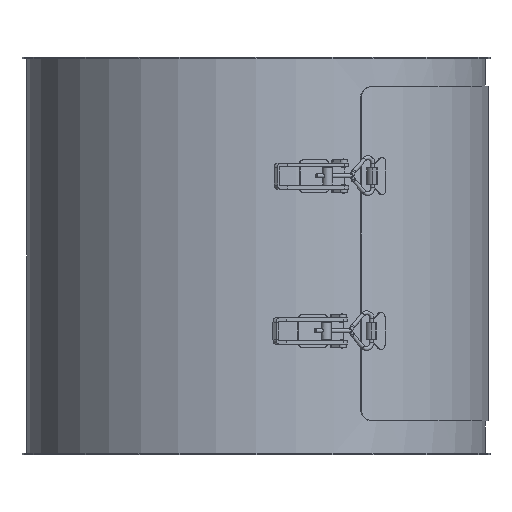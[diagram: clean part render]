
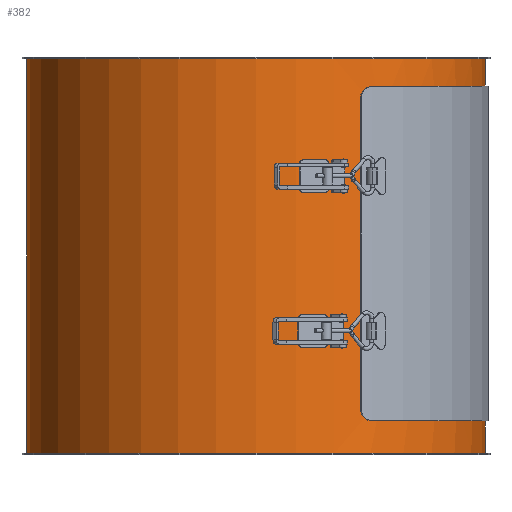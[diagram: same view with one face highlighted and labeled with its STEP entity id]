
A CAD part, left-side view. The second image highlights one B-rep face of the part: STEP entity #382.
In plain terms, the highlighted cylindrical face has radius 281 mm (diameter 562 mm), a full revolution.
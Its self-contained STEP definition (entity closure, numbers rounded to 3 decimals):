
#123=CARTESIAN_POINT('',(-235.5,-153.3,69.));
#124=VERTEX_POINT('',#123);
#131=CARTESIAN_POINT('',(235.5,-153.3,69.));
#132=VERTEX_POINT('',#131);
#133=CARTESIAN_POINT('',(0.0,0.0,69.));
#134=DIRECTION('',(0.0,0.0,-1.0));
#135=DIRECTION('',(-1.0,0.0,0.0));
#136=AXIS2_PLACEMENT_3D('',#133,#134,#135);
#137=CIRCLE('',#136,281.0);
#138=EDGE_CURVE('',#132,#124,#137,.T.);
#163=CARTESIAN_POINT('',(235.5,-153.3,419.));
#164=VERTEX_POINT('',#163);
#165=CARTESIAN_POINT('',(235.5,-153.3,419.));
#166=DIRECTION('',(0.0,0.0,-1.0));
#167=VECTOR('',#166,350.);
#168=LINE('',#165,#167);
#169=EDGE_CURVE('',#164,#132,#168,.T.);
#195=CARTESIAN_POINT('',(-235.5,-153.3,419.));
#196=VERTEX_POINT('',#195);
#197=CARTESIAN_POINT('',(0.0,0.0,419.));
#198=DIRECTION('',(0.0,0.0,1.0));
#199=DIRECTION('',(-1.0,0.0,0.0));
#200=AXIS2_PLACEMENT_3D('',#197,#198,#199);
#201=CIRCLE('',#200,281.0);
#202=EDGE_CURVE('',#196,#164,#201,.T.);
#225=CARTESIAN_POINT('',(-235.5,-153.3,69.));
#226=DIRECTION('',(0.0,0.0,1.0));
#227=VECTOR('',#226,350.0);
#228=LINE('',#225,#227);
#229=EDGE_CURVE('',#124,#196,#228,.T.);
#271=CARTESIAN_POINT('',(-281.0,0.,2.0));
#272=VERTEX_POINT('',#271);
#273=CARTESIAN_POINT('',(0.0,0.0,2.0));
#274=DIRECTION('',(0.0,0.0,1.0));
#275=DIRECTION('',(-1.0,0.0,0.0));
#276=AXIS2_PLACEMENT_3D('',#273,#274,#275);
#277=CIRCLE('',#276,281.0);
#278=EDGE_CURVE('',#272,#272,#277,.T.);
#319=CARTESIAN_POINT('',(281.0,0.,486.0));
#320=VERTEX_POINT('',#319);
#321=CARTESIAN_POINT('',(0.0,0.0,486.0));
#322=DIRECTION('',(0.0,0.0,-1.0));
#323=DIRECTION('',(-1.0,0.0,0.0));
#324=AXIS2_PLACEMENT_3D('',#321,#322,#323);
#325=CIRCLE('',#324,281.0);
#326=EDGE_CURVE('',#320,#320,#325,.T.);
#365=CARTESIAN_POINT('',(0.0,0.0,0.0));
#366=DIRECTION('',(0.0,0.0,1.0));
#367=DIRECTION('',(-1.0,0.0,0.0));
#368=AXIS2_PLACEMENT_3D('',#365,#366,#367);
#369=CYLINDRICAL_SURFACE('',#368,281.0);
#370=ORIENTED_EDGE('',*,*,#278,.T.);
#371=EDGE_LOOP('',(#370));
#372=FACE_OUTER_BOUND('',#371,.T.);
#373=ORIENTED_EDGE('',*,*,#202,.T.);
#374=ORIENTED_EDGE('',*,*,#169,.T.);
#375=ORIENTED_EDGE('',*,*,#138,.T.);
#376=ORIENTED_EDGE('',*,*,#229,.T.);
#377=EDGE_LOOP('',(#373,#374,#375,#376));
#378=FACE_BOUND('',#377,.T.);
#379=ORIENTED_EDGE('',*,*,#326,.T.);
#380=EDGE_LOOP('',(#379));
#381=FACE_BOUND('',#380,.T.);
#382=ADVANCED_FACE('',(#372,#378,#381),#369,.T.);
